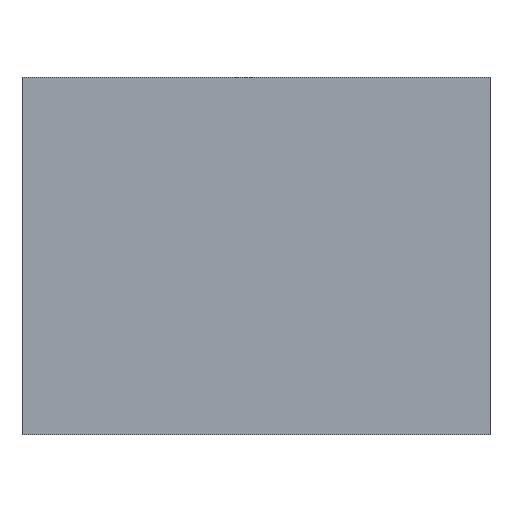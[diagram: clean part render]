
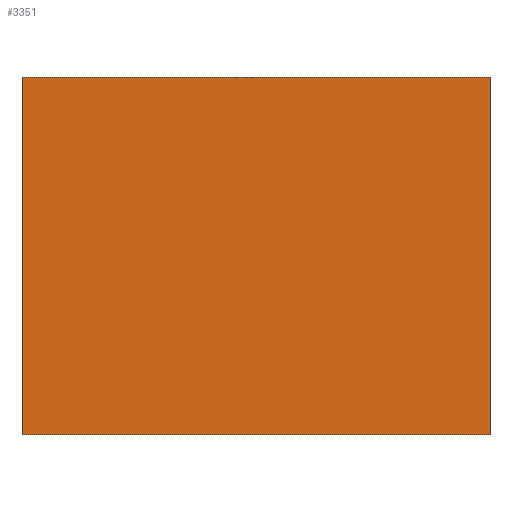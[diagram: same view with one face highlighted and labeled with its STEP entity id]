
A CAD part, top view. The second image highlights one B-rep face of the part: STEP entity #3351.
In plain terms, the highlighted planar face has unit normal (0, 0, 1).
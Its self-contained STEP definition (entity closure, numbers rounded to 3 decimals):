
#3215=CARTESIAN_POINT('Vertex',(106.,81.,32.)) ;
#3229=CARTESIAN_POINT('Vertex',(-106.,81.,32.)) ;
#3232=CARTESIAN_POINT('Line Origine',(0.,81.,32.)) ;
#3260=CARTESIAN_POINT('Vertex',(-106.,-81.,32.)) ;
#3263=CARTESIAN_POINT('Line Origine',(-106.,0.,32.)) ;
#3291=CARTESIAN_POINT('Vertex',(106.,-81.,32.)) ;
#3294=CARTESIAN_POINT('Line Origine',(0.,-81.,32.)) ;
#3316=CARTESIAN_POINT('Line Origine',(106.,0.,32.)) ;
#3340=CARTESIAN_POINT('Axis2P3D Location',(0.,0.,32.)) ;
#3233=DIRECTION('Vector Direction',(1.,0.,0.)) ;
#3264=DIRECTION('Vector Direction',(0.,1.,0.)) ;
#3295=DIRECTION('Vector Direction',(-1.,0.,0.)) ;
#3317=DIRECTION('Vector Direction',(0.,-1.,0.)) ;
#3341=DIRECTION('Axis2P3D Direction',(0.,0.,1.)) ;
#3342=DIRECTION('Axis2P3D XDirection',(1.,0.,0.)) ;
#3343=AXIS2_PLACEMENT_3D('Plane Axis2P3D',#3340,#3341,#3342) ;
#3346=ORIENTED_EDGE('',*,*,#3236,.T.) ;
#3347=ORIENTED_EDGE('',*,*,#3267,.T.) ;
#3348=ORIENTED_EDGE('',*,*,#3298,.T.) ;
#3349=ORIENTED_EDGE('',*,*,#3320,.T.) ;
#3234=VECTOR('Line Direction',#3233,1.) ;
#3265=VECTOR('Line Direction',#3264,1.) ;
#3296=VECTOR('Line Direction',#3295,1.) ;
#3318=VECTOR('Line Direction',#3317,1.) ;
#3351=ADVANCED_FACE('cavity',(#3350),#3344,.T.) ;
#3236=EDGE_CURVE('',#3216,#3230,#3235,.F.) ;
#3267=EDGE_CURVE('',#3230,#3261,#3266,.F.) ;
#3298=EDGE_CURVE('',#3261,#3292,#3297,.F.) ;
#3320=EDGE_CURVE('',#3292,#3216,#3319,.F.) ;
#3345=EDGE_LOOP('',(#3346,#3347,#3348,#3349)) ;
#3350=FACE_OUTER_BOUND('',#3345,.T.) ;
#3235=LINE('Line',#3232,#3234) ;
#3266=LINE('Line',#3263,#3265) ;
#3297=LINE('Line',#3294,#3296) ;
#3319=LINE('Line',#3316,#3318) ;
#3344=PLANE('Plane',#3343) ;
#3216=VERTEX_POINT('',#3215) ;
#3230=VERTEX_POINT('',#3229) ;
#3261=VERTEX_POINT('',#3260) ;
#3292=VERTEX_POINT('',#3291) ;
